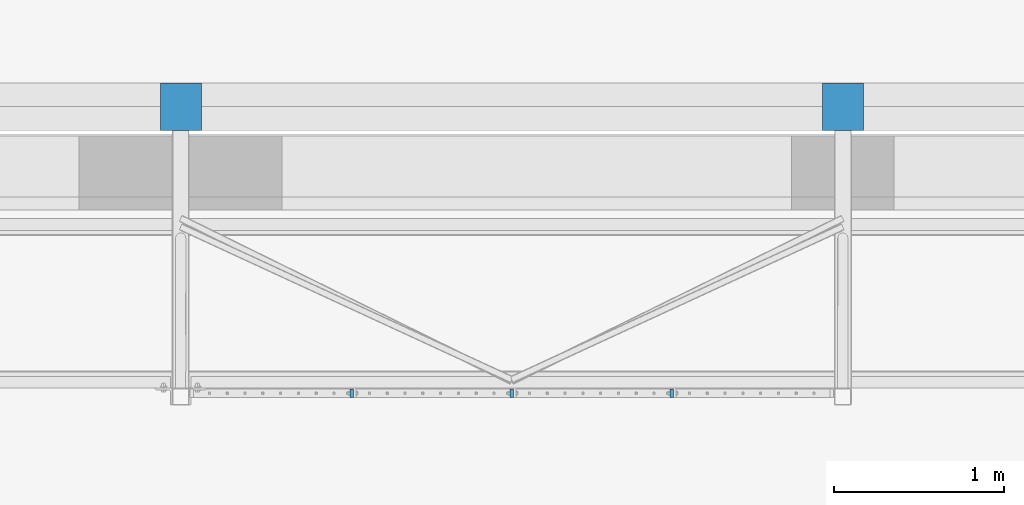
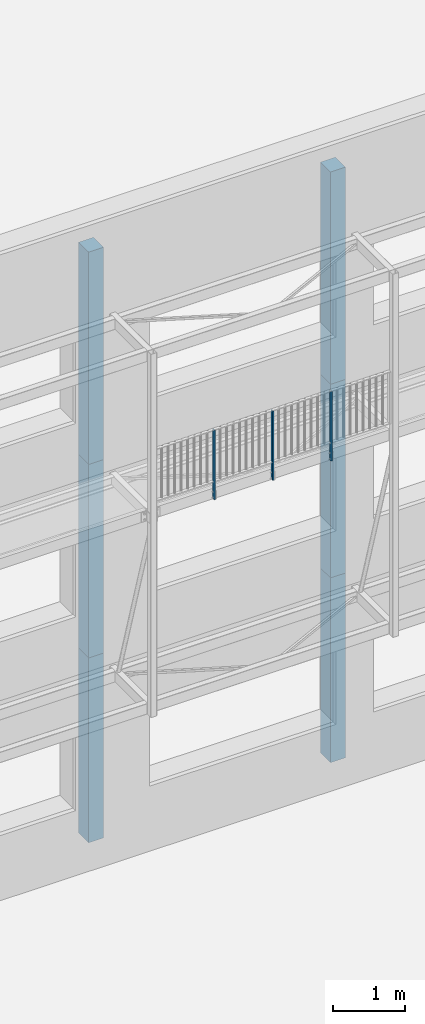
# One storey, part 3 of 78: 9 columns, 7 elements without a shape of their own.
"""IFC2X3 building model written with IfcOpenShell, lengths in millimetres."""

from ifc_helpers import new_model, si_unit, frame, origin_with_axes, origin_2d_with_axis, place, context, subcontext, project, spatial, rectangle, extrude, clip, halfspace, material, type_object, element, aggregate, save


model = new_model("IFC2X3")

# Units and contexts
model_context = context("Model", 3, precision=1e-05, world=origin_with_axes())
body_context = subcontext(model_context, "Body", "Model", "MODEL_VIEW")
ifc_project = project(units=[si_unit("LENGTHUNIT", "METRE", prefix="MILLI"), si_unit("AREAUNIT", "SQUARE_METRE"), si_unit("VOLUMEUNIT", "CUBIC_METRE"), si_unit("MASSUNIT", "GRAM", prefix="KILO"), si_unit("TIMEUNIT", "SECOND"), si_unit("PLANEANGLEUNIT", "RADIAN"), si_unit("SOLIDANGLEUNIT", "STERADIAN"), si_unit("THERMODYNAMICTEMPERATUREUNIT", "DEGREE_CELSIUS"), si_unit("LUMINOUSINTENSITYUNIT", "LUMEN")], contexts=[model_context])

# Site, building, storey
site_placement = place(None, origin_with_axes())
site = spatial("IfcSite", under=ifc_project, at=site_placement, Name="Site", CompositionType="ELEMENT")
building_placement = place(site_placement, origin_with_axes())
building = spatial("IfcBuilding", under=site, at=building_placement, Name="Undefined", CompositionType="ELEMENT")
storey_placement = place(building_placement, origin_with_axes())
storey = spatial("IfcBuildingStorey", under=building, at=storey_placement, Name="Undefined", CompositionType="ELEMENT", Elevation=0.0)

# Assembly, column
assembly_1_placement = place(storey_placement, origin_with_axes())
assembly_1 = element("IfcElementAssembly", 1, at=assembly_1_placement, inside=storey, Name="POUTRE", AssemblyPlace="NOTDEFINED", PredefinedType="NOTDEFINED")
ifc_material_1 = material(Name="TIMBER/CHENE")
column_type_1 = type_object("IfcColumnType", Name="240*280", PredefinedType="NOTDEFINED")
column_1_placement = place(assembly_1_placement, frame((-22683.4326934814, -6955.00101089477, 159850.03746582), z_axis=(0.0, 0.0, 1.0), x_axis=(-1.0, 0.0, 0.0)))
column_1 = element("IfcColumn", 2, at=column_1_placement, type_object=column_type_1, material=ifc_material_1, Name="POUTRE", ObjectType="240*280", context=body_context, shape_type="SweptSolid", body=[
    extrude(rectangle(XDim=280.0, YDim=240.0, at=origin_2d_with_axis()), frame((0.0, 0.0, 3620.01389648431), z_axis=(0.0, 0.0, -1.0), x_axis=(0.0, 1.0, 0.0)), (0.0, 0.0, 1.0), 3620.01),
])
aggregate(assembly_1, [column_1])

assembly_2_placement = place(storey_placement, origin_with_axes())
assembly_2 = element("IfcElementAssembly", 3, at=assembly_2_placement, inside=storey, Name="POUTRE", AssemblyPlace="NOTDEFINED", PredefinedType="NOTDEFINED")
column_2_placement = place(assembly_2_placement, frame((-18783.4320302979, -6955.0008328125, 159850.037954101), z_axis=(0.0, 0.0, 1.0), x_axis=(-1.0, 0.0, 0.0)))
column_2 = element("IfcColumn", 4, at=column_2_placement, type_object=column_type_1, material=ifc_material_1, Name="POUTRE", ObjectType="240*280", context=body_context, shape_type="SweptSolid", body=[
    extrude(rectangle(XDim=280.0, YDim=240.0, at=origin_2d_with_axis()), frame((0.0, 0.0, 3620.01389648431), z_axis=(0.0, 0.0, -1.0), x_axis=(0.0, 1.0, 0.0)), (0.0, 0.0, 1.0), 3620.01),
])
aggregate(assembly_2, [column_2])

assembly_3_placement = place(storey_placement, origin_with_axes())
assembly_3 = element("IfcElementAssembly", 5, at=assembly_3_placement, inside=storey, Name="POUTRE", AssemblyPlace="NOTDEFINED", PredefinedType="NOTDEFINED")
column_3_placement = place(assembly_3_placement, frame((-22683.4326934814, -6955.00101089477, 156550.033569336), z_axis=(0.0, 0.0, 1.0), x_axis=(-1.0, 0.0, 0.0)))
column_3 = element("IfcColumn", 6, at=column_3_placement, type_object=column_type_1, material=ifc_material_1, Name="POUTRE", ObjectType="240*280", context=body_context, shape_type="SweptSolid", body=[
    extrude(rectangle(XDim=280.0, YDim=240.0, at=origin_2d_with_axis()), frame((0.0, 0.0, 3300.0038964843), z_axis=(0.0, 0.0, -1.0), x_axis=(0.0, 1.0, 0.0)), (0.0, 0.0, 1.0), 3300.0),
])
aggregate(assembly_3, [column_3])

assembly_4_placement = place(storey_placement, origin_with_axes())
assembly_4 = element("IfcElementAssembly", 7, at=assembly_4_placement, inside=storey, Name="POUTRE", AssemblyPlace="NOTDEFINED", PredefinedType="NOTDEFINED")
column_4_placement = place(assembly_4_placement, frame((-18783.4320302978, -6955.0008328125, 156550.034057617), z_axis=(0.0, 0.0, 1.0), x_axis=(-1.0, 0.0, 0.0)))
column_4 = element("IfcColumn", 8, at=column_4_placement, type_object=column_type_1, material=ifc_material_1, Name="POUTRE", ObjectType="240*280", context=body_context, shape_type="SweptSolid", body=[
    extrude(rectangle(XDim=280.0, YDim=240.0, at=origin_2d_with_axis()), frame((0.0, 0.0, 3300.0038964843), z_axis=(0.0, 0.0, -1.0), x_axis=(0.0, 1.0, 0.0)), (0.0, 0.0, 1.0), 3300.0),
])
aggregate(assembly_4, [column_4])

assembly_5_placement = place(storey_placement, origin_with_axes())
assembly_5 = element("IfcElementAssembly", 9, at=assembly_5_placement, inside=storey, Name="POUTRE", AssemblyPlace="NOTDEFINED", PredefinedType="NOTDEFINED")
column_5_placement = place(assembly_5_placement, frame((-22683.4326934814, -6955.00101089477, 153400.039672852), z_axis=(0.0, 0.0, 1.0), x_axis=(-1.0, 0.0, 0.0)))
column_5 = element("IfcColumn", 10, at=column_5_placement, type_object=column_type_1, material=ifc_material_1, Name="POUTRE", ObjectType="240*280", context=body_context, shape_type="SweptSolid", body=[
    extrude(rectangle(XDim=280.0, YDim=240.0, at=origin_2d_with_axis()), frame((0.0, 0.0, 3149.99389648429), z_axis=(0.0, 0.0, -1.0), x_axis=(0.0, 1.0, 0.0)), (0.0, 0.0, 1.0), 3149.99),
])
aggregate(assembly_5, [column_5])

assembly_6_placement = place(storey_placement, origin_with_axes())
assembly_6 = element("IfcElementAssembly", 11, at=assembly_6_placement, inside=storey, Name="POUTRE", AssemblyPlace="NOTDEFINED", PredefinedType="NOTDEFINED")
column_6_placement = place(assembly_6_placement, frame((-18783.4320302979, -6955.00083281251, 153400.040161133), z_axis=(0.0, 0.0, 1.0), x_axis=(-1.0, 0.0, 0.0)))
column_6 = element("IfcColumn", 12, at=column_6_placement, type_object=column_type_1, material=ifc_material_1, Name="POUTRE", ObjectType="240*280", context=body_context, shape_type="SweptSolid", body=[
    extrude(rectangle(XDim=280.0, YDim=240.0, at=origin_2d_with_axis()), frame((0.0, 0.0, 3149.99389648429), z_axis=(0.0, 0.0, -1.0), x_axis=(0.0, 1.0, 0.0)), (0.0, 0.0, 1.0), 3149.99),
])
aggregate(assembly_6, [column_6])

# Assembly, columns
assembly_7_placement = place(storey_placement, origin_with_axes())
assembly_7 = element("IfcElementAssembly", 13, at=assembly_7_placement, inside=storey, Name="MAIN_COURANTE", AssemblyPlace="NOTDEFINED", PredefinedType="RIGID_FRAME")
ifc_material_2 = material(Name="STEEL/S235JR")
column_type_2 = type_object("IfcColumnType", Name="PL20*50", PredefinedType="NOTDEFINED")
column_7_placement = place(assembly_7_placement, frame((-19792.5, -8643.0, 159970.04), z_axis=(0.0, 0.0, 1.0), x_axis=(0.0, 1.0, 0.0)))
column_7 = element("IfcColumn", 14, at=column_7_placement, type_object=column_type_2, material=ifc_material_2, Name="MONTANT", ObjectType="PL20*50", context=body_context, shape_type="Clipping", body=[
    clip(clip(extrude(rectangle(XDim=20.0, YDim=50.0, at=origin_2d_with_axis()), frame((0.0, 0.0, 1030.0), z_axis=(0.0, 0.0, -1.0), x_axis=(0.0, 1.0, 0.0)), (0.0, 0.0, 1.0), 1190.0), halfspace(frame((1.96450855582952e-10, 0.0, 1020.0), z_axis=(0.0, 0.0, 1.0), x_axis=(-1.0, 0.0, 0.0)), False)), halfspace(frame((0.0, -1010.0, -160.0), z_axis=(0.0, 0.0, 1.0), x_axis=(-1.0, 0.0, 0.0)), True)),
])
column_8_placement = place(assembly_7_placement, frame((-20735.0, -8643.0, 159970.04), z_axis=(0.0, 0.0, 1.0), x_axis=(0.0, 1.0, 0.0)))
column_8 = element("IfcColumn", 15, at=column_8_placement, type_object=column_type_2, material=ifc_material_2, Name="MONTANT", ObjectType="PL20*50", context=body_context, shape_type="Clipping", body=[
    clip(clip(extrude(rectangle(XDim=20.0, YDim=50.0, at=origin_2d_with_axis()), frame((0.0, 0.0, 1030.0), z_axis=(0.0, 0.0, -1.0), x_axis=(0.0, 1.0, 0.0)), (0.0, 0.0, 1.0), 1190.0), halfspace(frame((1.96450855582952e-10, 0.0, 1020.0), z_axis=(0.0, 0.0, 1.0), x_axis=(-1.0, 0.0, 0.0)), False)), halfspace(frame((0.0, -1010.0, -160.0), z_axis=(0.0, 0.0, 1.0), x_axis=(-1.0, 0.0, 0.0)), True)),
])
column_9_placement = place(assembly_7_placement, frame((-21677.5, -8643.0, 159970.04), z_axis=(0.0, 0.0, 1.0), x_axis=(0.0, 1.0, 0.0)))
column_9 = element("IfcColumn", 16, at=column_9_placement, type_object=column_type_2, material=ifc_material_2, Name="MONTANT", ObjectType="PL20*50", context=body_context, shape_type="Clipping", body=[
    clip(clip(extrude(rectangle(XDim=20.0, YDim=50.0, at=origin_2d_with_axis()), frame((0.0, 0.0, 1030.0), z_axis=(0.0, 0.0, -1.0), x_axis=(0.0, 1.0, 0.0)), (0.0, 0.0, 1.0), 1190.0), halfspace(frame((1.96450855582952e-10, 0.0, 1020.0), z_axis=(0.0, 0.0, 1.0), x_axis=(-1.0, 0.0, 0.0)), False)), halfspace(frame((0.0, -1010.0, -160.0), z_axis=(0.0, 0.0, 1.0), x_axis=(-1.0, 0.0, 0.0)), True)),
])
aggregate(assembly_7, [column_7, column_8, column_9])

save(model, "model.ifc")
